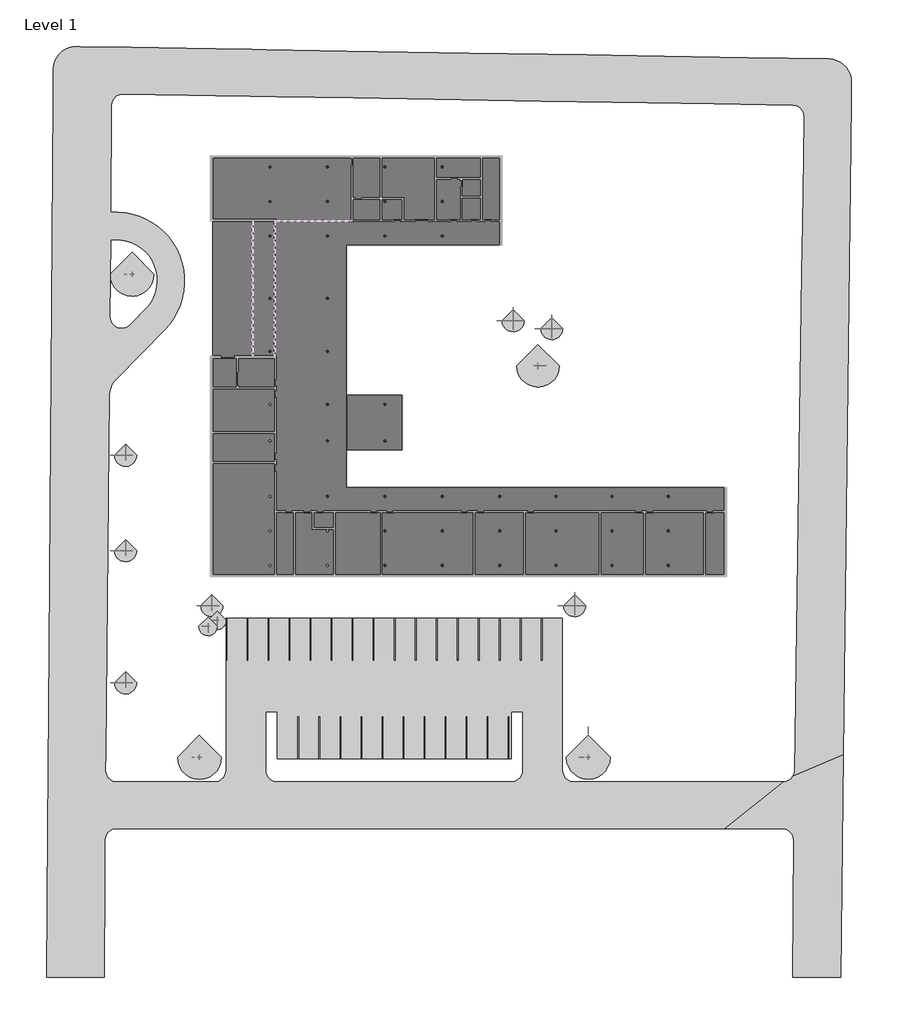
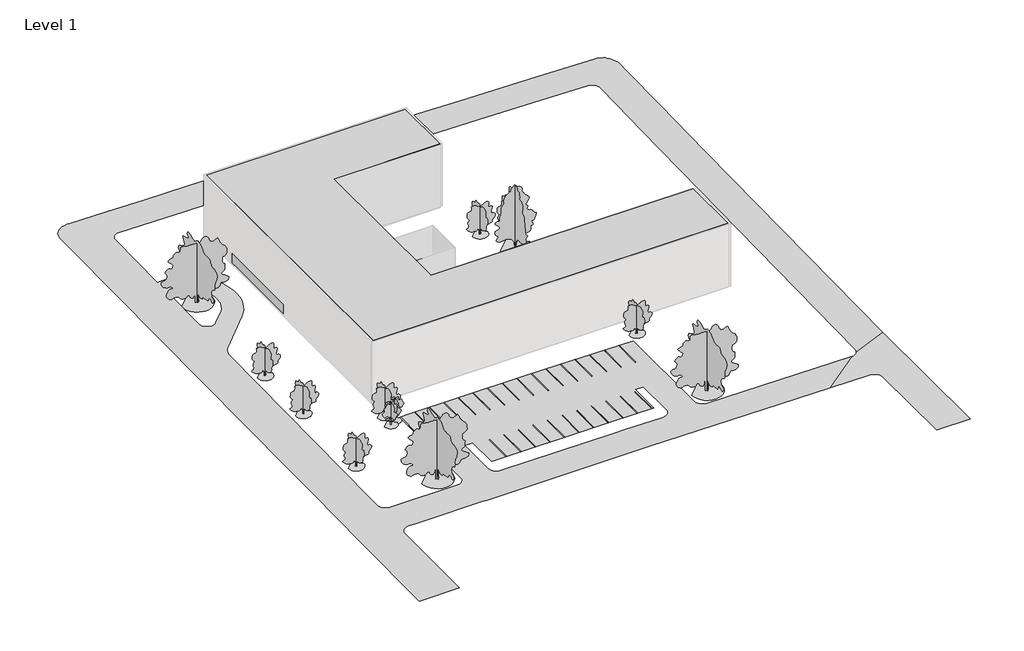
# One storey, part 5 of 5: 39 columns, 30 proxies, 13 geographic elements.
"""IFC4 building model written with IfcOpenShell, lengths in millimetres."""

from ifc_helpers import new_model, si_unit, origin, origin_with_axes, place, context, project, spatial, polyline, outline, extrude, triangles, transform, mapped, element, save
from components import m_parking_space_5480_x_2740mm_90_deg_a793e569, m_concrete_round_column_300mm_df790aaa, m_rpc_tree_deciduous_american_beech_6_0_meters_be49fed4, m_rpc_tree_deciduous_japanese_cherry_4_5_meters_7aaeb41d, m_rpc_tree_deciduous_lombardy_poplar_12_2_meters_1b309f58, m_rpc_tree_deciduous_scarlet_oak_12_5_meters_13b38d7d

model = new_model("IFC4")

# Units and contexts
model_context = context("Model", 3, world=origin())
ifc_project = project(units=[si_unit("LENGTHUNIT", "METRE", prefix="MILLI")], contexts=[model_context])

# Site, building, storey
site = spatial("IfcSite", under=ifc_project)
building = spatial("IfcBuilding", under=site)
storey = spatial("IfcBuildingStorey", under=building, Name="Level 1", Elevation=0.0)

# Proxies
placement = place(None, origin())
element("IfcBuildingElementProxy", 1, Name="Building Element Proxy", at=placement, inside=storey, context=model_context, shape_type="Tessellation", body=[
    triangles([(70309.7548828, 43704.7137085, -503.1527547), (59746.7205688, 43879.5355957, -409.5406998), (45204.5570435, 44120.2092773, -278.9620967), (38757.531958, 44226.9097412, -221.9724431), (23364.4389771, 44481.6709351, -156.1477909), (7458.42556, 44744.915332, 0.0), (-3099.0088051, 44919.6442017, 0.0), (-4909.0805878, 44949.6005127, 0.0), (-9691.7927261, 45028.7538208, 0.0), (-13464.786264, 45091.2011719, 0.0), (-20574.5627563, 45208.8684082, 0.0), (-27271.6376953, 45319.7081543, 0.0), (-27739.5370422, 45327.4518677, 0.0), (-28264.1631592, 45290.0215942, 0.0), (-28774.1901672, 45161.5457153, 0.0), (-29253.9399536, 44945.9681763, 0.0), (-29688.6669067, 44649.9211304, 0.0), (-30065.011377, 44282.4970459, 0.0), (-30371.4019775, 43854.9975586, 0.0), (-30598.4230042, 43380.5567505, 0.0), (-30739.095813, 42873.755127, 0.0), (-30774.2820374, 42505.3404053, 0.0), (-30789.0997375, 42350.1824341, 0.0), (-30818.2607483, 38430.6216797, 0.0), (-31349.0702087, -32913.8142334, 0.0), (-31410.3827454, -41154.7298218, 0.0), (-31466.9560364, -48758.3494263, 0.0), (-31526.3942688, -56747.4710815, 0.0), (-31669.8878357, -76033.9217651, 0.0), (-24160.2671448, -76033.9217651, 0.0), (-24090.7853394, -62944.5904907, 0.0), (-24065.2287598, -58130.4099243, 0.0), (-24026.1078918, -57797.9371948, 0.0), (-23964.4744446, -57624.1291992, 0.0), (-23914.2263489, -57482.4262207, 0.0), (-23735.1558838, -57199.58302, 0.0), (-23497.8145569, -56963.4997559, 0.0), (-23214.0249023, -56785.9338501, 0.0), (-22897.9232666, -56675.7266235, 0.0), (-22565.2505493, -56638.3707642, 0.0), (-21189.1601257, -56638.3707642, 0.0), (-18714.6158203, -56638.3707642, 0.0), (-9198.8908356, -56638.3707642, 0.0), (-8594.8358459, -56638.3707642, 0.0), (-7828.2291504, -56638.3707642, 0.0), (21010.0826843, -56638.3707642, 0.0), (22698.8121643, -56638.3707642, 0.0), (56711.1151611, -56638.3707642, -334.7282604), (64236.9255615, -56638.3707642, -334.7282604), (64572.5050781, -56676.3916992, -334.0721231), (64891.0763306, -56788.5243896, -332.1369578), (65176.4821655, -56969.0808105, -329.020869), (65414.2630005, -57208.917334, -324.8818048), (65592.3591064, -57495.8672607, -319.9295998), (65701.7431274, -57815.3872925, -314.4152925), (65736.8712158, -58151.2830688, -308.6184443), (65582.9224731, -76033.9217651, 0.0), (71858.6882446, -76033.9217651, 0.0), (72207.6111328, -46972.9328247, -501.5343578), (72914.4470581, 11897.6051788, -595.5837407), (72981.5592407, 17486.9884277, -555.8220689), (73096.2220093, 27037.1194519, -545.4053719), (73231.3532959, 38291.881311, -535.7858282), (73259.8957397, 40669.1083008, -533.0508934), (73220.8237061, 41189.0672607, -532.0520082), (73092.3059692, 41694.4085083, -530.2807137), (72878.2306641, 42169.863208, -527.790495), (72585.0625122, 42601.0694458, -524.6566383), (72221.661438, 42975.0001099, -520.9737236), (71799.0035156, 43280.3582153, -516.8530812), (71329.8554077, 43507.9210693, -512.4191949), (70828.3883423, 43650.810022, -507.805959), (65844.943689, -49064.5493408, -435.8225258), (65789.1005859, -49448.423584, -434.7050795), (65636.6912842, -49805.1366943, -432.6774053), (65397.8965576, -50110.8436157, -429.875069), (65088.6968262, -50345.0897827, -426.4855594), (64729.7652466, -50492.2110352, -422.7355339), (64345.1050049, -50542.3707642, -418.8757768), (37077.7972778, -50542.3707642, -150.5276125), (36744.0176514, -50504.7637573, -147.2983764), (36426.9718872, -50393.8263428, -144.3423523), (36142.5636658, -50215.1163208, -141.8077414), (35905.0502563, -49977.6052368, -139.8216707), (35726.3448853, -49693.1946899, -138.4837074), (35615.4051453, -49376.1535767, -137.8609529), (35577.7981384, -49042.3692993, -137.9846372), (35577.7981384, -29206.3707642, -167.3300298), (18575.1115448, -29206.3707642, 0.0), (14497.9359924, -29206.3707642, 0.0), (-7039.9656372, -29206.3707642, 0.0), (-8262.2014984, -29206.3707642, 0.0), (-8262.2014984, -49042.3692993, 0.0), (-8299.809668, -49376.1535767, 0.0), (-8410.7482452, -49693.1946899, 0.0), (-8589.4541977, -49977.6052368, 0.0), (-8665.8786026, -50054.028479, 0.0), (-8826.9670258, -50215.1163208, 0.0), (-9111.3758286, -50393.8263428, 0.0), (-9428.4198486, -50504.7637573, 0.0), (-9455.9652603, -50507.8658936, 0.0), (-9762.2018005, -50542.3707642, 0.0), (-21961.0269653, -50542.3707642, 0.0), (-22489.1714722, -50542.3707642, 0.0), (-22825.1137573, -50504.2661133, 0.0), (-23143.9896423, -50391.896228, 0.0), (-23429.5977905, -50210.9584351, 0.0), (-23667.4274597, -49970.6568237, 0.0), (-23845.3979919, -49683.1953003, 0.0), (-23954.4657532, -49363.1729736, 0.0), (-23989.0915466, -49026.8539673, 0.0), (-23965.8278503, -46777.8191528, 0.0), (-23482.8736084, -89.4265001, 0.0), (-23435.7322998, 363.1888415, 0.0), (-23321.7694885, 803.7518847, 0.0), (-23143.5268799, 1222.4547432, 0.0), (-22904.9670227, 1609.9761475, 0.0), (-22611.4058716, 1957.6892258, 0.0), (-16262.7991974, 8428.9988754, 0.0), (-15636.7711304, 9137.9788559, 0.0), (-15088.4732025, 9908.6498383, 0.0), (-14623.9422546, 10732.5286194, 0.0), (-14248.2919281, 11600.5442413, 0.0), (-13965.658017, 12503.1414734, 0.0), (-13779.1507965, 13430.3848755, 0.0), (-13690.8247925, 14372.0646057, 0.0), (-13701.6508759, 15317.8173431, 0.0), (-13811.5116119, 16257.2297699, 0.0), (-14019.1954468, 17179.959494, 0.0), (-14322.4187988, 18075.8513214, 0.0), (-14717.8411743, 18935.0395752, 0.0), (-15201.1093506, 19748.0690186, 0.0), (-15766.9062103, 20505.9855469, 0.0), (-16409.0007385, 21200.4478088, 0.0), (-17120.3235992, 21823.812085, 0.0), (-17893.0473633, 22369.2160034, 0.0), (-18718.662085, 22830.6506287, 0.0), (-19588.0811096, 23203.0418518, 0.0), (-20491.7329285, 23482.2875977, 0.0), (-21419.6693115, 23665.3136353, 0.0), (-22361.6746033, 23750.1084595, 0.0), (-23307.3796692, 23735.7325928, 0.0), (-23203.9185425, 37641.6768127, 0.0), (-23163.3768311, 37977.0679688, 0.0), (-23048.8094055, 38294.8811279, 0.0), (-22866.0228882, 38578.9940186, 0.0), (-22624.2911316, 38814.9958923, 0.0), (-22335.8738525, 38990.915387, 0.0), (-22015.4050415, 39097.8274658, 0.0), (-21679.1371948, 39130.3092041, 0.0), (-13208.9460663, 38990.1293884, 0.0), (-9625.997905, 38930.8306824, 0.0), (-5084.1908295, 38855.6655029, 0.0), (-1645.9585442, 38798.7619995, 0.0), (8377.2142456, 38632.8791016, 0.0), (32875.1398499, 38227.4364075, -240.4937689), (46729.6360474, 37998.1434265, -299.7389899), (55435.3325684, 37854.0638489, -376.6945579), (65630.1847046, 37685.3392639, -468.2372987), (65962.9318359, 37642.302356, -471.261242), (66277.7870361, 37526.3815247, -474.1950019), (66559.0024292, 37343.376416, -476.8917123), (66792.4998047, 37102.4422852, -479.216534), (66966.6054565, 36815.6318848, -481.0531225), (67072.6082886, 36497.2978271, -482.3095865), (67105.1969971, 36163.3670471, -482.9230665), (67025.2297852, 30755.4808594, -487.4104743), (66899.3025879, 22239.1774292, -496.4906977), (66805.7827148, 15914.661145, -541.4088498), (-1581.9995121, -47494.3707642, 0.0), (18839.3663452, -47494.3707642, 0.0), (21324.2449036, -47494.3707642, 0.0), (28897.5965881, -47494.3707642, -74.5322966), (28897.5965881, -41398.3707642, -83.5507232), (30421.5965881, -41398.3707642, -98.5489992), (30421.5965881, -49042.3692993, -87.2404598), (30383.9895813, -49376.1535767, -86.3765409), (30273.0498413, -49693.1946899, -84.8157168), (30094.3444702, -49977.6052368, -82.6362441), (29856.8310608, -50215.1163208, -79.9474184), (29572.4228394, -50393.8263428, -76.8840607), (29255.3770752, -50504.7637573, -73.5997817), (28921.5974487, -50542.3707642, -70.2592743), (21782.4332153, -50542.3707642, 0.0), (19562.9384583, -50542.3707642, 0.0), (-1605.9993553, -50542.3707642, 0.0), (-1939.7807259, -50504.7637573, 0.0), (-2256.8250366, -50393.8263428, 0.0), (-2541.2341301, -50215.1163208, 0.0), (-2778.7466675, -49977.6052368, 0.0), (-2957.4526199, -49693.1946899, 0.0), (-3068.3911972, -49376.1535767, 0.0), (-3105.9993668, -49042.3692993, 0.0), (-3105.9993668, -41398.3707642, 0.0), (-1581.9995121, -41398.3707642, 0.0), (-23329.5411072, 20062.4428528, 0.0), (-22621.2355042, 20122.8182373, 0.0), (-21911.2137268, 20088.0784973, 0.0), (-21212.1866272, 19958.8398743, 0.0), (-20536.6766968, 19737.4208313, 0.0), (-19896.7808716, 19427.7839172, 0.0), (-19303.9589172, 19035.4776306, 0.0), (-18768.829953, 18567.527124, 0.0), (-18300.9771149, 18032.3132813, 0.0), (-17908.7801239, 17439.420401, 0.0), (-17599.2606445, 16799.4687653, 0.0), (-17377.9648499, 16123.9181396, 0.0), (-17248.854126, 15424.8677856, 0.0), (-17214.2422852, 14714.8378693, 0.0), (-17274.7478943, 14006.5438934, 0.0), (-17429.2872986, 13312.6722931, 0.0), (-17675.0943878, 12645.649054, 0.0), (-18007.7659424, 12017.4211212, 0.0), (-18421.3430237, 11439.2389709, 0.0), (-20791.7983337, 9022.9684341, 0.0), (-21073.2044128, 8797.119429, 0.0), (-21399.8193604, 8643.7590225, 0.0), (-21753.3349915, 8571.483783, 0.0), (-22113.9339111, 8584.3452072, 0.0), (-22461.4010742, 8681.6229904, 0.0), (-22776.2609253, 8857.8639771, 0.0), (-23040.8610535, 9103.1879562, 0.0), (-23240.3698059, 9403.8428604, 0.0), (-23363.6018188, 9742.9750671, 0.0), (-23403.6505371, 10101.5741089, 0.0)], [[29, 30, 31], [29, 31, 28], [28, 32, 33], [32, 28, 31], [33, 34, 28], [28, 34, 35], [36, 37, 108], [36, 108, 28], [108, 37, 107], [38, 106, 107], [106, 38, 39], [37, 38, 107], [36, 28, 35], [28, 108, 27], [110, 111, 27], [109, 110, 27], [26, 27, 112], [25, 112, 113], [112, 25, 26], [27, 111, 112], [109, 27, 108], [114, 115, 224], [113, 114, 225], [225, 114, 224], [223, 116, 117], [223, 224, 115], [116, 223, 115], [25, 113, 24], [24, 113, 225], [105, 39, 40], [104, 40, 103], [105, 40, 104], [117, 118, 222], [118, 219, 220], [221, 118, 220], [223, 117, 222], [103, 41, 42], [41, 103, 40], [219, 118, 218], [216, 118, 119], [217, 218, 118], [118, 216, 217], [216, 119, 215], [212, 213, 122], [214, 121, 213], [119, 214, 215], [221, 222, 118], [121, 122, 213], [122, 123, 212], [211, 123, 124], [211, 212, 123], [211, 124, 210], [210, 124, 125], [121, 214, 120], [120, 214, 119], [105, 106, 39], [142, 143, 24], [196, 142, 24], [24, 144, 145], [144, 24, 143], [24, 145, 23], [146, 23, 145], [142, 196, 197], [196, 24, 225], [140, 198, 139], [197, 198, 141], [141, 198, 140], [12, 146, 147], [141, 142, 197], [12, 147, 148], [22, 20, 21], [16, 17, 22], [20, 22, 19], [18, 19, 22], [17, 18, 22], [22, 23, 13], [23, 12, 13], [23, 146, 12], [149, 11, 148], [16, 22, 15], [22, 14, 15], [13, 14, 22], [149, 150, 11], [12, 148, 11], [139, 198, 199], [207, 208, 128], [133, 203, 204], [205, 206, 131], [132, 204, 205], [207, 129, 206], [209, 126, 127], [126, 209, 210], [127, 128, 208], [206, 130, 131], [130, 206, 129], [129, 207, 128], [127, 208, 209], [210, 125, 126], [131, 132, 205], [137, 201, 136], [200, 201, 137], [11, 150, 151], [139, 199, 138], [200, 137, 138], [201, 202, 136], [199, 200, 138], [203, 134, 202], [134, 135, 202], [136, 202, 135], [10, 151, 9], [10, 11, 151], [203, 133, 134], [204, 132, 133], [103, 42, 102], [100, 43, 44], [99, 100, 44], [102, 43, 101], [188, 45, 187], [100, 101, 43], [44, 45, 99], [45, 186, 187], [43, 102, 42], [185, 186, 46], [46, 186, 45], [184, 46, 47], [185, 46, 184], [182, 183, 47], [47, 183, 184], [182, 82, 181], [99, 45, 98], [98, 45, 97], [95, 96, 190], [93, 94, 192], [95, 191, 94], [97, 190, 96], [45, 189, 190], [45, 188, 189], [191, 192, 94], [191, 95, 190], [193, 93, 192], [180, 181, 83], [190, 97, 45], [81, 182, 47], [79, 50, 78], [49, 50, 79], [80, 47, 48], [48, 79, 80], [79, 48, 49], [81, 47, 80], [78, 50, 51], [57, 58, 56], [55, 59, 54], [77, 51, 52], [59, 75, 53], [76, 52, 53], [54, 59, 53], [182, 81, 82], [55, 56, 59], [180, 84, 179], [180, 83, 84], [179, 84, 85], [177, 178, 86], [85, 86, 178], [178, 179, 85], [87, 177, 86], [77, 78, 51], [75, 76, 53], [59, 73, 74], [74, 75, 59], [77, 52, 76], [82, 83, 181], [56, 58, 59], [170, 171, 195], [91, 92, 194], [194, 195, 91], [93, 194, 92], [195, 90, 91], [90, 195, 171], [194, 93, 193], [175, 176, 87], [172, 174, 89], [172, 173, 174], [175, 88, 174], [88, 175, 87], [172, 89, 171], [177, 87, 176], [89, 174, 88], [8, 152, 153], [7, 153, 154], [8, 9, 152], [6, 7, 154], [8, 153, 7], [154, 155, 6], [9, 151, 152], [89, 90, 171], [155, 5, 6], [155, 156, 5], [5, 156, 4], [4, 157, 3], [4, 156, 157], [168, 169, 61], [160, 161, 1], [162, 163, 64], [161, 162, 1], [163, 164, 63], [62, 168, 61], [61, 169, 60], [165, 166, 63], [167, 63, 166], [168, 62, 167], [164, 165, 63], [63, 167, 62], [3, 158, 2], [2, 158, 159], [2, 159, 1], [66, 71, 72], [72, 1, 65], [159, 160, 1], [158, 3, 157], [66, 72, 65], [64, 65, 1], [66, 67, 71], [69, 70, 68], [67, 68, 70], [71, 67, 70], [162, 64, 1], [163, 63, 64], [60, 169, 73], [59, 60, 73]], closed=False),
])
m_parking_space_5480_x_2740mm_90_deg_shape = m_parking_space_5480_x_2740mm_90_deg_a793e569(model_context)
element("IfcBuildingElementProxy", 2, Name="M_Parking Space : 5480 x 2740mm - 90 deg", ObjectType="M_Parking Space : 5480 x 2740mm - 90 deg", at=placement, inside=storey, context=model_context, shape_type="MappedRepresentation", body=[
    mapped(m_parking_space_5480_x_2740mm_90_deg_shape, transform((-8211.3704002, -29206.3707642, 0.7803686), x_axis=(1.0, 0.0, 0.0), y_axis=(0.0, 1.0, 0.0), z_axis=(0.0, 0.0, 1.0))),
])
element("IfcBuildingElementProxy", 3, Name="M_Parking Space : 5480 x 2740mm - 90 deg", ObjectType="M_Parking Space : 5480 x 2740mm - 90 deg", at=placement, inside=storey, context=model_context, shape_type="MappedRepresentation", body=[
    mapped(m_parking_space_5480_x_2740mm_90_deg_shape, transform((-5471.4012928, -29206.3707642, 0.7803686), x_axis=(1.0, 0.0, 0.0), y_axis=(0.0, 1.0, 0.0), z_axis=(0.0, 0.0, 1.0))),
])
element("IfcBuildingElementProxy", 4, Name="M_Parking Space : 5480 x 2740mm - 90 deg", ObjectType="M_Parking Space : 5480 x 2740mm - 90 deg", at=placement, inside=storey, context=model_context, shape_type="MappedRepresentation", body=[
    mapped(m_parking_space_5480_x_2740mm_90_deg_shape, transform((-2731.4321855, -29206.3707642, 0.7803686), x_axis=(1.0, 0.0, 0.0), y_axis=(0.0, 1.0, 0.0), z_axis=(0.0, 0.0, 1.0))),
])
element("IfcBuildingElementProxy", 5, Name="M_Parking Space : 5480 x 2740mm - 90 deg", ObjectType="M_Parking Space : 5480 x 2740mm - 90 deg", at=placement, inside=storey, context=model_context, shape_type="MappedRepresentation", body=[
    mapped(m_parking_space_5480_x_2740mm_90_deg_shape, transform((8.5369219, -29206.3707642, 0.7803686), x_axis=(1.0, 0.0, 0.0), y_axis=(0.0, 1.0, 0.0), z_axis=(0.0, 0.0, 1.0))),
])
element("IfcBuildingElementProxy", 6, Name="M_Parking Space : 5480 x 2740mm - 90 deg", ObjectType="M_Parking Space : 5480 x 2740mm - 90 deg", at=placement, inside=storey, context=model_context, shape_type="MappedRepresentation", body=[
    mapped(m_parking_space_5480_x_2740mm_90_deg_shape, transform((2748.5060292, -29206.3707642, 0.7803686), x_axis=(1.0, 0.0, 0.0), y_axis=(0.0, 1.0, 0.0), z_axis=(0.0, 0.0, 1.0))),
])
element("IfcBuildingElementProxy", 7, Name="M_Parking Space : 5480 x 2740mm - 90 deg", ObjectType="M_Parking Space : 5480 x 2740mm - 90 deg", at=placement, inside=storey, context=model_context, shape_type="MappedRepresentation", body=[
    mapped(m_parking_space_5480_x_2740mm_90_deg_shape, transform((5488.4751366, -29206.3707642, 0.7803686), x_axis=(1.0, 0.0, 0.0), y_axis=(0.0, 1.0, 0.0), z_axis=(0.0, 0.0, 1.0))),
])
element("IfcBuildingElementProxy", 8, Name="M_Parking Space : 5480 x 2740mm - 90 deg", ObjectType="M_Parking Space : 5480 x 2740mm - 90 deg", at=placement, inside=storey, context=model_context, shape_type="MappedRepresentation", body=[
    mapped(m_parking_space_5480_x_2740mm_90_deg_shape, transform((8228.4442439, -29206.3707642, 0.7803686), x_axis=(1.0, 0.0, 0.0), y_axis=(0.0, 1.0, 0.0), z_axis=(0.0, 0.0, 1.0))),
])
element("IfcBuildingElementProxy", 9, Name="M_Parking Space : 5480 x 2740mm - 90 deg", ObjectType="M_Parking Space : 5480 x 2740mm - 90 deg", at=placement, inside=storey, context=model_context, shape_type="MappedRepresentation", body=[
    mapped(m_parking_space_5480_x_2740mm_90_deg_shape, transform((10968.4133512, -29206.3707642, 0.7803686), x_axis=(1.0, 0.0, 0.0), y_axis=(0.0, 1.0, 0.0), z_axis=(0.0, 0.0, 1.0))),
])
element("IfcBuildingElementProxy", 10, Name="M_Parking Space : 5480 x 2740mm - 90 deg", ObjectType="M_Parking Space : 5480 x 2740mm - 90 deg", at=placement, inside=storey, context=model_context, shape_type="MappedRepresentation", body=[
    mapped(m_parking_space_5480_x_2740mm_90_deg_shape, transform((13708.3824586, -29206.3707642, 0.7803686), x_axis=(1.0, 0.0, 0.0), y_axis=(0.0, 1.0, 0.0), z_axis=(0.0, 0.0, 1.0))),
])
element("IfcBuildingElementProxy", 11, Name="M_Parking Space : 5480 x 2740mm - 90 deg", ObjectType="M_Parking Space : 5480 x 2740mm - 90 deg", at=placement, inside=storey, context=model_context, shape_type="MappedRepresentation", body=[
    mapped(m_parking_space_5480_x_2740mm_90_deg_shape, transform((16448.3515659, -29206.3707642, 0.7254434), x_axis=(1.0, 0.0, 0.0), y_axis=(0.0, 1.0, 0.0), z_axis=(0.0, 0.0, 1.0))),
])
element("IfcBuildingElementProxy", 12, Name="M_Parking Space : 5480 x 2740mm - 90 deg", ObjectType="M_Parking Space : 5480 x 2740mm - 90 deg", at=placement, inside=storey, context=model_context, shape_type="MappedRepresentation", body=[
    mapped(m_parking_space_5480_x_2740mm_90_deg_shape, transform((19188.3206733, -29206.3707642, -5.2310848), x_axis=(0.9999560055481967, 0.0, -0.009380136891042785), y_axis=(-1.1675017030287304e-05, 0.9999992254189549, -0.0012445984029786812), z_axis=(0.009380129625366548, 0.0012446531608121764, 0.9999552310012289))),
])
element("IfcBuildingElementProxy", 13, Name="M_Parking Space : 5480 x 2740mm - 90 deg", ObjectType="M_Parking Space : 5480 x 2740mm - 90 deg", at=placement, inside=storey, context=model_context, shape_type="MappedRepresentation", body=[
    mapped(m_parking_space_5480_x_2740mm_90_deg_shape, transform((21928.2897806, -29206.3707642, -32.2196013), x_axis=(0.9999515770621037, 0.0, -0.0098409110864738), y_axis=(-1.4557933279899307e-05, 0.9999989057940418, -0.0014792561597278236), z_axis=(0.009840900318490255, 0.0014793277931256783, 0.99995048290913))),
])
element("IfcBuildingElementProxy", 14, Name="M_Parking Space : 5480 x 2740mm - 90 deg", ObjectType="M_Parking Space : 5480 x 2740mm - 90 deg", at=placement, inside=storey, context=model_context, shape_type="MappedRepresentation", body=[
    mapped(m_parking_space_5480_x_2740mm_90_deg_shape, transform((24668.258888, -29206.3707642, -59.1846994), x_axis=(0.9999515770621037, 0.0, -0.009840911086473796), y_axis=(-1.4557933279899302e-05, 0.9999989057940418, -0.0014792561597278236), z_axis=(0.009840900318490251, 0.0014793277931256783, 0.99995048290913))),
])
element("IfcBuildingElementProxy", 15, Name="M_Parking Space : 5480 x 2740mm - 90 deg", ObjectType="M_Parking Space : 5480 x 2740mm - 90 deg", at=placement, inside=storey, context=model_context, shape_type="MappedRepresentation", body=[
    mapped(m_parking_space_5480_x_2740mm_90_deg_shape, transform((27408.2279953, -29206.3707642, -86.1497975), x_axis=(0.9999515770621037, 0.0, -0.0098409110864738), y_axis=(-1.4557933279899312e-05, 0.9999989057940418, -0.001479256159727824), z_axis=(0.009840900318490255, 0.0014793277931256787, 0.99995048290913))),
])
element("IfcBuildingElementProxy", 16, Name="M_Parking Space : 5480 x 2740mm - 90 deg", ObjectType="M_Parking Space : 5480 x 2740mm - 90 deg", at=placement, inside=storey, context=model_context, shape_type="MappedRepresentation", body=[
    mapped(m_parking_space_5480_x_2740mm_90_deg_shape, transform((30148.1971027, -29206.3707642, -113.1148956), x_axis=(0.9999515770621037, 0.0, -0.009840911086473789), y_axis=(-1.4557933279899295e-05, 0.9999989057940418, -0.001479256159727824), z_axis=(0.009840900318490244, 0.0014793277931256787, 0.99995048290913))),
])
element("IfcBuildingElementProxy", 17, Name="M_Parking Space : 5480 x 2740mm - 90 deg", ObjectType="M_Parking Space : 5480 x 2740mm - 90 deg", at=placement, inside=storey, context=model_context, shape_type="MappedRepresentation", body=[
    mapped(m_parking_space_5480_x_2740mm_90_deg_shape, transform((32888.16621, -29206.3707642, -140.0799937), x_axis=(0.9999515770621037, 0.0, -0.009840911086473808), y_axis=(-1.4557933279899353e-05, 0.9999989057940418, -0.0014792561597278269), z_axis=(0.009840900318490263, 0.0014793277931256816, 0.99995048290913))),
])
element("IfcBuildingElementProxy", 18, Name="M_Parking Space : 5480 x 2740mm - 90 deg", ObjectType="M_Parking Space : 5480 x 2740mm - 90 deg", at=placement, inside=storey, context=model_context, shape_type="MappedRepresentation", body=[
    mapped(m_parking_space_5480_x_2740mm_90_deg_shape, transform((28558.0005584, -47494.3704098, -70.4098691), x_axis=(-0.9999515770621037, 0.0, 0.009840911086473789), y_axis=(1.4557933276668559e-05, -0.9999989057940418, 0.0014792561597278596), z_axis=(0.00984090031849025, 0.0014793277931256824, 0.99995048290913))),
])
element("IfcBuildingElementProxy", 19, Name="M_Parking Space : 5480 x 2740mm - 90 deg", ObjectType="M_Parking Space : 5480 x 2740mm - 90 deg", at=placement, inside=storey, context=model_context, shape_type="MappedRepresentation", body=[
    mapped(m_parking_space_5480_x_2740mm_90_deg_shape, transform((25818.031746, -47494.3704098, -43.444774), x_axis=(-0.9999515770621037, 0.0, 0.009840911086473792), y_axis=(1.455793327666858e-05, -0.9999989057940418, 0.0014792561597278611), z_axis=(0.009840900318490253, 0.001479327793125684, 0.99995048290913))),
])
element("IfcBuildingElementProxy", 20, Name="M_Parking Space : 5480 x 2740mm - 90 deg", ObjectType="M_Parking Space : 5480 x 2740mm - 90 deg", at=placement, inside=storey, context=model_context, shape_type="MappedRepresentation", body=[
    mapped(m_parking_space_5480_x_2740mm_90_deg_shape, transform((23078.0629336, -47494.3704098, -16.4796788), x_axis=(-0.9999515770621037, 0.0, 0.009840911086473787), y_axis=(1.4557933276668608e-05, -0.9999989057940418, 0.0014792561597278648), z_axis=(0.009840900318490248, 0.0014793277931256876, 0.99995048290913))),
])
element("IfcBuildingElementProxy", 21, Name="M_Parking Space : 5480 x 2740mm - 90 deg", ObjectType="M_Parking Space : 5480 x 2740mm - 90 deg", at=placement, inside=storey, context=model_context, shape_type="MappedRepresentation", body=[
    mapped(m_parking_space_5480_x_2740mm_90_deg_shape, transform((20338.0941212, -47494.3704098, 0.5399922), x_axis=(-0.9999888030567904, 0.0, 0.004732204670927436), y_axis=(3.5003760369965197e-06, -0.9999997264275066, 0.0007396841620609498), z_axis=(0.004732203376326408, 0.0007396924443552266, 0.9999885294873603))),
])
element("IfcBuildingElementProxy", 22, Name="M_Parking Space : 5480 x 2740mm - 90 deg", ObjectType="M_Parking Space : 5480 x 2740mm - 90 deg", at=placement, inside=storey, context=model_context, shape_type="MappedRepresentation", body=[
    mapped(m_parking_space_5480_x_2740mm_90_deg_shape, transform((17598.1253087, -47494.3704098, 0.7803686), x_axis=(-1.0, 0.0, 0.0), y_axis=(0.0, -1.0, 0.0), z_axis=(0.0, 0.0, 1.0))),
])
element("IfcBuildingElementProxy", 23, Name="M_Parking Space : 5480 x 2740mm - 90 deg", ObjectType="M_Parking Space : 5480 x 2740mm - 90 deg", at=placement, inside=storey, context=model_context, shape_type="MappedRepresentation", body=[
    mapped(m_parking_space_5480_x_2740mm_90_deg_shape, transform((14858.1564963, -47494.3704098, 0.7803686), x_axis=(-1.0, 0.0, 0.0), y_axis=(0.0, -1.0, 0.0), z_axis=(0.0, 0.0, 1.0))),
])
element("IfcBuildingElementProxy", 24, Name="M_Parking Space : 5480 x 2740mm - 90 deg", ObjectType="M_Parking Space : 5480 x 2740mm - 90 deg", at=placement, inside=storey, context=model_context, shape_type="MappedRepresentation", body=[
    mapped(m_parking_space_5480_x_2740mm_90_deg_shape, transform((12118.1876839, -47494.3704098, 0.7803686), x_axis=(-1.0, 0.0, 0.0), y_axis=(0.0, -1.0, 0.0), z_axis=(0.0, 0.0, 1.0))),
])
element("IfcBuildingElementProxy", 25, Name="M_Parking Space : 5480 x 2740mm - 90 deg", ObjectType="M_Parking Space : 5480 x 2740mm - 90 deg", at=placement, inside=storey, context=model_context, shape_type="MappedRepresentation", body=[
    mapped(m_parking_space_5480_x_2740mm_90_deg_shape, transform((9378.2188715, -47494.3704098, 0.7803686), x_axis=(-1.0, 0.0, 0.0), y_axis=(0.0, -1.0, 0.0), z_axis=(0.0, 0.0, 1.0))),
])
element("IfcBuildingElementProxy", 26, Name="M_Parking Space : 5480 x 2740mm - 90 deg", ObjectType="M_Parking Space : 5480 x 2740mm - 90 deg", at=placement, inside=storey, context=model_context, shape_type="MappedRepresentation", body=[
    mapped(m_parking_space_5480_x_2740mm_90_deg_shape, transform((6638.2500591, -47494.3704098, 0.7803686), x_axis=(-1.0, 0.0, 0.0), y_axis=(0.0, -1.0, 0.0), z_axis=(0.0, 0.0, 1.0))),
])
element("IfcBuildingElementProxy", 27, Name="M_Parking Space : 5480 x 2740mm - 90 deg", ObjectType="M_Parking Space : 5480 x 2740mm - 90 deg", at=placement, inside=storey, context=model_context, shape_type="MappedRepresentation", body=[
    mapped(m_parking_space_5480_x_2740mm_90_deg_shape, transform((3898.2812467, -47494.3704098, 0.7803686), x_axis=(-1.0, 0.0, 0.0), y_axis=(0.0, -1.0, 0.0), z_axis=(0.0, 0.0, 1.0))),
])
element("IfcBuildingElementProxy", 28, Name="M_Parking Space : 5480 x 2740mm - 90 deg", ObjectType="M_Parking Space : 5480 x 2740mm - 90 deg", at=placement, inside=storey, context=model_context, shape_type="MappedRepresentation", body=[
    mapped(m_parking_space_5480_x_2740mm_90_deg_shape, transform((1158.3124343, -47494.3704098, 0.7803686), x_axis=(-1.0, 0.0, 0.0), y_axis=(0.0, -1.0, 0.0), z_axis=(0.0, 0.0, 1.0))),
])
element("IfcBuildingElementProxy", 29, Name="Main Building : Main Building", ObjectType="Main Building : Main Building", at=placement, inside=storey, context=model_context, shape_type="SweptSolid", body=[
    extrude(outline(polyline([(27411.8999097, 30818.5799804), (27411.8999097, 19414.8392059), (7447.5010724, 19414.8392059), (7447.5010724, -12132.3615692), (56699.1173382, -12132.3615692), (56699.1173382, -23510.7006057), (-10026.8386635, -23510.7006057), (-10026.8386635, 30818.5799804), (27411.8999097, 30818.5799804)])), origin_with_axes(), (0.0, 0.0, 1.0), 12400.0),
])
element("IfcBuildingElementProxy", 30, Name="Pavillion : Pavillion", ObjectType="Pavillion : Pavillion", at=placement, inside=storey, context=model_context, shape_type="SweptSolid", body=[
    extrude(outline(polyline([(14709.0902051, -89.4607941), (14709.0902051, -7283.8611817), (7447.5010724, -7283.8611817), (7447.5010724, -89.4607941), (14709.0902051, -89.4607941)])), origin_with_axes(), (0.0, 0.0, 1.0), 6600.0),
])

# Columns
m_concrete_round_column_300mm_shape = m_concrete_round_column_300mm_df790aaa(model_context)
element("IfcColumn", 31, ObjectType="M_Concrete-Round-Column : 300mm", at=placement, inside=storey, context=model_context, shape_type="MappedRepresentation", body=[
    mapped(m_concrete_round_column_300mm_shape, transform((-2539.0909489, 25116.7095931, 0.0), x_axis=(-1.0, 0.0, 0.0), y_axis=(0.0, -1.0, 0.0), z_axis=(0.0, 0.0, 1.0))),
])
element("IfcColumn", 32, ObjectType="M_Concrete-Round-Column : 300mm", at=placement, inside=storey, context=model_context, shape_type="MappedRepresentation", body=[
    mapped(m_concrete_round_column_300mm_shape, transform((-2539.0909489, 12506.7392059, 0.0), x_axis=(-1.0, 0.0, 0.0), y_axis=(0.0, -1.0, 0.0), z_axis=(0.0, 0.0, 1.0))),
])
element("IfcColumn", 33, ObjectType="M_Concrete-Round-Column : 300mm", at=placement, inside=storey, context=model_context, shape_type="MappedRepresentation", body=[
    mapped(m_concrete_round_column_300mm_shape, transform((-2539.0909489, 5598.6392059, 0.0), x_axis=(-1.0, 0.0, 0.0), y_axis=(0.0, -1.0, 0.0), z_axis=(0.0, 0.0, 1.0))),
])
element("IfcColumn", 34, ObjectType="M_Concrete-Round-Column : 300mm", at=placement, inside=storey, context=model_context, shape_type="MappedRepresentation", body=[
    mapped(m_concrete_round_column_300mm_shape, transform((-2539.0909489, 29618.5799804, 0.0), x_axis=(-1.0, 0.0, 0.0), y_axis=(0.0, -1.0, 0.0), z_axis=(0.0, 0.0, 1.0))),
])
element("IfcColumn", 35, ObjectType="M_Concrete-Round-Column : 300mm", at=placement, inside=storey, context=model_context, shape_type="MappedRepresentation", body=[
    mapped(m_concrete_round_column_300mm_shape, transform((-2539.0909489, 20614.8392059, 0.0), x_axis=(-1.0, 0.0, 0.0), y_axis=(0.0, -1.0, 0.0), z_axis=(0.0, 0.0, 1.0))),
])
element("IfcColumn", 36, ObjectType="M_Concrete-Round-Column : 300mm", at=placement, inside=storey, context=model_context, shape_type="MappedRepresentation", body=[
    mapped(m_concrete_round_column_300mm_shape, transform((4948.6567657, 25116.7095931, 0.0), x_axis=(-1.0, 0.0, 0.0), y_axis=(0.0, -1.0, 0.0), z_axis=(0.0, 0.0, 1.0))),
])
element("IfcColumn", 37, ObjectType="M_Concrete-Round-Column : 300mm", at=placement, inside=storey, context=model_context, shape_type="MappedRepresentation", body=[
    mapped(m_concrete_round_column_300mm_shape, transform((4948.6567657, 12506.7392059, 0.0), x_axis=(-1.0, 0.0, 0.0), y_axis=(0.0, -1.0, 0.0), z_axis=(0.0, 0.0, 1.0))),
])
element("IfcColumn", 38, ObjectType="M_Concrete-Round-Column : 300mm", at=placement, inside=storey, context=model_context, shape_type="MappedRepresentation", body=[
    mapped(m_concrete_round_column_300mm_shape, transform((4948.6567657, 5598.6392059, 0.0), x_axis=(-1.0, 0.0, 0.0), y_axis=(0.0, -1.0, 0.0), z_axis=(0.0, 0.0, 1.0))),
])
element("IfcColumn", 39, ObjectType="M_Concrete-Round-Column : 300mm", at=placement, inside=storey, context=model_context, shape_type="MappedRepresentation", body=[
    mapped(m_concrete_round_column_300mm_shape, transform((4948.6567657, -1309.4607941, 0.0), x_axis=(-1.0, 0.0, 0.0), y_axis=(0.0, -1.0, 0.0), z_axis=(0.0, 0.0, 1.0))),
])
element("IfcColumn", 40, ObjectType="M_Concrete-Round-Column : 300mm", at=placement, inside=storey, context=model_context, shape_type="MappedRepresentation", body=[
    mapped(m_concrete_round_column_300mm_shape, transform((4948.6567657, -6063.8611817, 0.0), x_axis=(-1.0, 0.0, 0.0), y_axis=(0.0, -1.0, 0.0), z_axis=(0.0, 0.0, 1.0))),
])
element("IfcColumn", 41, ObjectType="M_Concrete-Round-Column : 300mm", at=placement, inside=storey, context=model_context, shape_type="MappedRepresentation", body=[
    mapped(m_concrete_round_column_300mm_shape, transform((4948.6567657, 29618.5799804, 0.0), x_axis=(-1.0, 0.0, 0.0), y_axis=(0.0, -1.0, 0.0), z_axis=(0.0, 0.0, 1.0))),
])
element("IfcColumn", 42, ObjectType="M_Concrete-Round-Column : 300mm", at=placement, inside=storey, context=model_context, shape_type="MappedRepresentation", body=[
    mapped(m_concrete_round_column_300mm_shape, transform((4948.6567657, 20614.8392059, 0.0), x_axis=(-1.0, 0.0, 0.0), y_axis=(0.0, -1.0, 0.0), z_axis=(0.0, 0.0, 1.0))),
])
element("IfcColumn", 43, ObjectType="M_Concrete-Round-Column : 300mm", at=placement, inside=storey, context=model_context, shape_type="MappedRepresentation", body=[
    mapped(m_concrete_round_column_300mm_shape, transform((4948.6567657, -13332.3615692, 0.0), x_axis=(-1.0, 0.0, 0.0), y_axis=(0.0, -1.0, 0.0), z_axis=(0.0, 0.0, 1.0))),
])
element("IfcColumn", 44, ObjectType="M_Concrete-Round-Column : 300mm", at=placement, inside=storey, context=model_context, shape_type="MappedRepresentation", body=[
    mapped(m_concrete_round_column_300mm_shape, transform((12436.4044804, 25116.7095931, 0.0), x_axis=(-1.0, 0.0, 0.0), y_axis=(0.0, -1.0, 0.0), z_axis=(0.0, 0.0, 1.0))),
])
element("IfcColumn", 45, ObjectType="M_Concrete-Round-Column : 300mm", at=placement, inside=storey, context=model_context, shape_type="MappedRepresentation", body=[
    mapped(m_concrete_round_column_300mm_shape, transform((12436.4044804, -1309.4607941, 0.0), x_axis=(-1.0, 0.0, 0.0), y_axis=(0.0, -1.0, 0.0), z_axis=(0.0, 0.0, 1.0))),
])
element("IfcColumn", 46, ObjectType="M_Concrete-Round-Column : 300mm", at=placement, inside=storey, context=model_context, shape_type="MappedRepresentation", body=[
    mapped(m_concrete_round_column_300mm_shape, transform((12436.4044804, -6063.8611817, 0.0), x_axis=(-1.0, 0.0, 0.0), y_axis=(0.0, -1.0, 0.0), z_axis=(0.0, 0.0, 1.0))),
])
element("IfcColumn", 47, ObjectType="M_Concrete-Round-Column : 300mm", at=placement, inside=storey, context=model_context, shape_type="MappedRepresentation", body=[
    mapped(m_concrete_round_column_300mm_shape, transform((12436.4044804, -17821.5310875, 0.0), x_axis=(-1.0, 0.0, 0.0), y_axis=(0.0, -1.0, 0.0), z_axis=(0.0, 0.0, 1.0))),
])
element("IfcColumn", 48, ObjectType="M_Concrete-Round-Column : 300mm", at=placement, inside=storey, context=model_context, shape_type="MappedRepresentation", body=[
    mapped(m_concrete_round_column_300mm_shape, transform((12436.4044804, 29618.5799804, 0.0), x_axis=(-1.0, 0.0, 0.0), y_axis=(0.0, -1.0, 0.0), z_axis=(0.0, 0.0, 1.0))),
])
element("IfcColumn", 49, ObjectType="M_Concrete-Round-Column : 300mm", at=placement, inside=storey, context=model_context, shape_type="MappedRepresentation", body=[
    mapped(m_concrete_round_column_300mm_shape, transform((12436.4044804, 20614.8392059, 0.0), x_axis=(-1.0, 0.0, 0.0), y_axis=(0.0, -1.0, 0.0), z_axis=(0.0, 0.0, 1.0))),
])
element("IfcColumn", 50, ObjectType="M_Concrete-Round-Column : 300mm", at=placement, inside=storey, context=model_context, shape_type="MappedRepresentation", body=[
    mapped(m_concrete_round_column_300mm_shape, transform((12436.4044804, -13332.3615692, 0.0), x_axis=(-1.0, 0.0, 0.0), y_axis=(0.0, -1.0, 0.0), z_axis=(0.0, 0.0, 1.0))),
])
element("IfcColumn", 51, ObjectType="M_Concrete-Round-Column : 300mm", at=placement, inside=storey, context=model_context, shape_type="MappedRepresentation", body=[
    mapped(m_concrete_round_column_300mm_shape, transform((12436.4044804, -22310.7006057, 0.0), x_axis=(-1.0, 0.0, 0.0), y_axis=(0.0, -1.0, 0.0), z_axis=(0.0, 0.0, 1.0))),
])
element("IfcColumn", 52, ObjectType="M_Concrete-Round-Column : 300mm", at=placement, inside=storey, context=model_context, shape_type="MappedRepresentation", body=[
    mapped(m_concrete_round_column_300mm_shape, transform((19924.152195, 25116.7095931, 0.0), x_axis=(-1.0, 0.0, 0.0), y_axis=(0.0, -1.0, 0.0), z_axis=(0.0, 0.0, 1.0))),
])
element("IfcColumn", 53, ObjectType="M_Concrete-Round-Column : 300mm", at=placement, inside=storey, context=model_context, shape_type="MappedRepresentation", body=[
    mapped(m_concrete_round_column_300mm_shape, transform((19924.152195, -17821.5310875, 0.0), x_axis=(-1.0, 0.0, 0.0), y_axis=(0.0, -1.0, 0.0), z_axis=(0.0, 0.0, 1.0))),
])
element("IfcColumn", 54, ObjectType="M_Concrete-Round-Column : 300mm", at=placement, inside=storey, context=model_context, shape_type="MappedRepresentation", body=[
    mapped(m_concrete_round_column_300mm_shape, transform((19924.152195, 29618.5799804, 0.0), x_axis=(-1.0, 0.0, 0.0), y_axis=(0.0, -1.0, 0.0), z_axis=(0.0, 0.0, 1.0))),
])
element("IfcColumn", 55, ObjectType="M_Concrete-Round-Column : 300mm", at=placement, inside=storey, context=model_context, shape_type="MappedRepresentation", body=[
    mapped(m_concrete_round_column_300mm_shape, transform((19924.152195, 20614.8392059, 0.0), x_axis=(-1.0, 0.0, 0.0), y_axis=(0.0, -1.0, 0.0), z_axis=(0.0, 0.0, 1.0))),
])
element("IfcColumn", 56, ObjectType="M_Concrete-Round-Column : 300mm", at=placement, inside=storey, context=model_context, shape_type="MappedRepresentation", body=[
    mapped(m_concrete_round_column_300mm_shape, transform((19924.152195, -13332.3615692, 0.0), x_axis=(-1.0, 0.0, 0.0), y_axis=(0.0, -1.0, 0.0), z_axis=(0.0, 0.0, 1.0))),
])
element("IfcColumn", 57, ObjectType="M_Concrete-Round-Column : 300mm", at=placement, inside=storey, context=model_context, shape_type="MappedRepresentation", body=[
    mapped(m_concrete_round_column_300mm_shape, transform((19924.152195, -22310.7006057, 0.0), x_axis=(-1.0, 0.0, 0.0), y_axis=(0.0, -1.0, 0.0), z_axis=(0.0, 0.0, 1.0))),
])
element("IfcColumn", 58, ObjectType="M_Concrete-Round-Column : 300mm", at=placement, inside=storey, context=model_context, shape_type="MappedRepresentation", body=[
    mapped(m_concrete_round_column_300mm_shape, transform((27411.8999097, -17821.5310875, 0.0), x_axis=(-1.0, 0.0, 0.0), y_axis=(0.0, -1.0, 0.0), z_axis=(0.0, 0.0, 1.0))),
])
element("IfcColumn", 59, ObjectType="M_Concrete-Round-Column : 300mm", at=placement, inside=storey, context=model_context, shape_type="MappedRepresentation", body=[
    mapped(m_concrete_round_column_300mm_shape, transform((27411.8999097, -13332.3615692, 0.0), x_axis=(-1.0, 0.0, 0.0), y_axis=(0.0, -1.0, 0.0), z_axis=(0.0, 0.0, 1.0))),
])
element("IfcColumn", 60, ObjectType="M_Concrete-Round-Column : 300mm", at=placement, inside=storey, context=model_context, shape_type="MappedRepresentation", body=[
    mapped(m_concrete_round_column_300mm_shape, transform((27411.8999097, -22310.7006057, 0.0), x_axis=(-1.0, 0.0, 0.0), y_axis=(0.0, -1.0, 0.0), z_axis=(0.0, 0.0, 1.0))),
])
element("IfcColumn", 61, ObjectType="M_Concrete-Round-Column : 300mm", at=placement, inside=storey, context=model_context, shape_type="MappedRepresentation", body=[
    mapped(m_concrete_round_column_300mm_shape, transform((34733.7042668, -17821.5310875, 0.0), x_axis=(-1.0, 0.0, 0.0), y_axis=(0.0, -1.0, 0.0), z_axis=(0.0, 0.0, 1.0))),
])
element("IfcColumn", 62, ObjectType="M_Concrete-Round-Column : 300mm", at=placement, inside=storey, context=model_context, shape_type="MappedRepresentation", body=[
    mapped(m_concrete_round_column_300mm_shape, transform((34733.7042668, -13332.3615692, 0.0), x_axis=(-1.0, 0.0, 0.0), y_axis=(0.0, -1.0, 0.0), z_axis=(0.0, 0.0, 1.0))),
])
element("IfcColumn", 63, ObjectType="M_Concrete-Round-Column : 300mm", at=placement, inside=storey, context=model_context, shape_type="MappedRepresentation", body=[
    mapped(m_concrete_round_column_300mm_shape, transform((34733.7042668, -22310.7006057, 0.0), x_axis=(-1.0, 0.0, 0.0), y_axis=(0.0, -1.0, 0.0), z_axis=(0.0, 0.0, 1.0))),
])
element("IfcColumn", 64, ObjectType="M_Concrete-Round-Column : 300mm", at=placement, inside=storey, context=model_context, shape_type="MappedRepresentation", body=[
    mapped(m_concrete_round_column_300mm_shape, transform((42055.5086239, -17821.5310875, 0.0), x_axis=(-1.0, 0.0, 0.0), y_axis=(0.0, -1.0, 0.0), z_axis=(0.0, 0.0, 1.0))),
])
element("IfcColumn", 65, ObjectType="M_Concrete-Round-Column : 300mm", at=placement, inside=storey, context=model_context, shape_type="MappedRepresentation", body=[
    mapped(m_concrete_round_column_300mm_shape, transform((42055.5086239, -13332.3615692, 0.0), x_axis=(-1.0, 0.0, 0.0), y_axis=(0.0, -1.0, 0.0), z_axis=(0.0, 0.0, 1.0))),
])
element("IfcColumn", 66, ObjectType="M_Concrete-Round-Column : 300mm", at=placement, inside=storey, context=model_context, shape_type="MappedRepresentation", body=[
    mapped(m_concrete_round_column_300mm_shape, transform((42055.5086239, -22310.7006057, 0.0), x_axis=(-1.0, 0.0, 0.0), y_axis=(0.0, -1.0, 0.0), z_axis=(0.0, 0.0, 1.0))),
])
element("IfcColumn", 67, ObjectType="M_Concrete-Round-Column : 300mm", at=placement, inside=storey, context=model_context, shape_type="MappedRepresentation", body=[
    mapped(m_concrete_round_column_300mm_shape, transform((49377.3129811, -17821.5310875, 0.0), x_axis=(-1.0, 0.0, 0.0), y_axis=(0.0, -1.0, 0.0), z_axis=(0.0, 0.0, 1.0))),
])
element("IfcColumn", 68, ObjectType="M_Concrete-Round-Column : 300mm", at=placement, inside=storey, context=model_context, shape_type="MappedRepresentation", body=[
    mapped(m_concrete_round_column_300mm_shape, transform((49377.3129811, -13332.3615692, 0.0), x_axis=(-1.0, 0.0, 0.0), y_axis=(0.0, -1.0, 0.0), z_axis=(0.0, 0.0, 1.0))),
])
element("IfcColumn", 69, ObjectType="M_Concrete-Round-Column : 300mm", at=placement, inside=storey, context=model_context, shape_type="MappedRepresentation", body=[
    mapped(m_concrete_round_column_300mm_shape, transform((49377.3129811, -22310.7006057, 0.0), x_axis=(-1.0, 0.0, 0.0), y_axis=(0.0, -1.0, 0.0), z_axis=(0.0, 0.0, 1.0))),
])

# Geographic elements
m_rpc_tree_deciduous_american_beech_6_0_meters_shape = m_rpc_tree_deciduous_american_beech_6_0_meters_be49fed4(model_context)
element("IfcGeographicElement", 70, ObjectType="M_RPC Tree - Deciduous : American Beech - 6.0 Meters", at=placement, inside=storey, context=model_context, shape_type="MappedRepresentation", body=[
    mapped(m_rpc_tree_deciduous_american_beech_6_0_meters_shape, transform((34188.8932364, 8562.754829, -209.5369666), x_axis=(1.0, 0.0, 0.0), y_axis=(0.0, 1.0, 0.0), z_axis=(0.0, 0.0, 1.0))),
])
element("IfcGeographicElement", 71, ObjectType="M_RPC Tree - Deciduous : American Beech - 6.0 Meters", at=placement, inside=storey, context=model_context, shape_type="MappedRepresentation", body=[
    mapped(m_rpc_tree_deciduous_american_beech_6_0_meters_shape, transform((-21369.8074033, -37622.5453961, 0.0), x_axis=(1.0, 0.0, 0.0), y_axis=(0.0, 1.0, 0.0), z_axis=(0.0, 0.0, 1.0))),
])
element("IfcGeographicElement", 72, ObjectType="M_RPC Tree - Deciduous : American Beech - 6.0 Meters", at=placement, inside=storey, context=model_context, shape_type="MappedRepresentation", body=[
    mapped(m_rpc_tree_deciduous_american_beech_6_0_meters_shape, transform((-21369.8074033, -20409.5737255, 0.0), x_axis=(1.0, 0.0, 0.0), y_axis=(0.0, 1.0, 0.0), z_axis=(0.0, 0.0, 1.0))),
])
element("IfcGeographicElement", 73, ObjectType="M_RPC Tree - Deciduous : American Beech - 6.0 Meters", at=placement, inside=storey, context=model_context, shape_type="MappedRepresentation", body=[
    mapped(m_rpc_tree_deciduous_american_beech_6_0_meters_shape, transform((-21369.8074033, -7968.5149933, 0.0), x_axis=(1.0, 0.0, 0.0), y_axis=(0.0, 1.0, 0.0), z_axis=(0.0, 0.0, 1.0))),
])
element("IfcGeographicElement", 74, ObjectType="M_RPC Tree - Deciduous : American Beech - 6.0 Meters", at=placement, inside=storey, context=model_context, shape_type="MappedRepresentation", body=[
    mapped(m_rpc_tree_deciduous_american_beech_6_0_meters_shape, transform((-10121.7269057, -27567.443133, 0.0), x_axis=(1.0, 0.0, 0.0), y_axis=(0.0, 1.0, 0.0), z_axis=(0.0, 0.0, 1.0))),
])
element("IfcGeographicElement", 75, ObjectType="M_RPC Tree - Deciduous : American Beech - 6.0 Meters", at=placement, inside=storey, context=model_context, shape_type="MappedRepresentation", body=[
    mapped(m_rpc_tree_deciduous_american_beech_6_0_meters_shape, transform((37171.3388229, -27567.443133, -185.4373169), x_axis=(1.0, 0.0, 0.0), y_axis=(0.0, 1.0, 0.0), z_axis=(0.0, 0.0, 1.0))),
])
element("IfcGeographicElement", 76, ObjectType="M_RPC Tree - Deciduous : American Beech - 6.0 Meters", at=placement, inside=storey, context=model_context, shape_type="MappedRepresentation", body=[
    mapped(m_rpc_tree_deciduous_american_beech_6_0_meters_shape, transform((29161.3421049, 9585.3076015, -161.5716527), x_axis=(1.0, 0.0, 0.0), y_axis=(0.0, 1.0, 0.0), z_axis=(0.0, 0.0, 1.0))),
])
m_rpc_tree_deciduous_japanese_cherry_4_5_meters_shape = m_rpc_tree_deciduous_japanese_cherry_4_5_meters_7aaeb41d(model_context)
element("IfcGeographicElement", 77, ObjectType="M_RPC Tree - Deciduous : Japanese Cherry - 4.5 Meters", at=placement, inside=storey, context=model_context, shape_type="MappedRepresentation", body=[
    mapped(m_rpc_tree_deciduous_japanese_cherry_4_5_meters_shape, transform((-10610.2166919, -30274.1375785, 0.0), x_axis=(1.0, 0.0, 0.0), y_axis=(0.0, 1.0, 0.0), z_axis=(0.0, 0.0, 1.0))),
])
element("IfcGeographicElement", 78, ObjectType="M_RPC Tree - Deciduous : Japanese Cherry - 4.5 Meters", at=placement, inside=storey, context=model_context, shape_type="MappedRepresentation", body=[
    mapped(m_rpc_tree_deciduous_japanese_cherry_4_5_meters_shape, transform((-9420.9461982, -29474.7859552, 0.0), x_axis=(1.0, 0.0, 0.0), y_axis=(0.0, 1.0, 0.0), z_axis=(0.0, 0.0, 1.0))),
])
m_rpc_tree_deciduous_lombardy_poplar_12_2_meters_shape = m_rpc_tree_deciduous_lombardy_poplar_12_2_meters_1b309f58(model_context)
element("IfcGeographicElement", 79, ObjectType="M_RPC Tree - Deciduous : Lombardy Poplar - 12.2 Meters", at=placement, inside=storey, context=model_context, shape_type="MappedRepresentation", body=[
    mapped(m_rpc_tree_deciduous_lombardy_poplar_12_2_meters_shape, transform((32399.4258845, 3705.6291595, -184.7404879), x_axis=(1.0, 0.0, 0.0), y_axis=(0.0, 1.0, 0.0), z_axis=(0.0, 0.0, 1.0))),
])
m_rpc_tree_deciduous_scarlet_oak_12_5_meters_shape = m_rpc_tree_deciduous_scarlet_oak_12_5_meters_13b38d7d(model_context)
element("IfcGeographicElement", 80, ObjectType="M_RPC Tree - Deciduous : Scarlet Oak - 12.5 Meters", at=placement, inside=storey, context=model_context, shape_type="MappedRepresentation", body=[
    mapped(m_rpc_tree_deciduous_scarlet_oak_12_5_meters_shape, transform((38960.8061748, -47336.7967349, -173.8013564), x_axis=(1.0, 0.0, 0.0), y_axis=(0.0, 1.0, 0.0), z_axis=(0.0, 0.0, 1.0))),
])
element("IfcGeographicElement", 81, ObjectType="M_RPC Tree - Deciduous : Scarlet Oak - 12.5 Meters", at=placement, inside=storey, context=model_context, shape_type="MappedRepresentation", body=[
    mapped(m_rpc_tree_deciduous_scarlet_oak_12_5_meters_shape, transform((-11740.7687955, -47336.7967349, 0.0), x_axis=(1.0, 0.0, 0.0), y_axis=(0.0, 1.0, 0.0), z_axis=(0.0, 0.0, 1.0))),
])
element("IfcGeographicElement", 82, ObjectType="M_RPC Tree - Deciduous : Scarlet Oak - 12.5 Meters", at=placement, inside=storey, context=model_context, shape_type="MappedRepresentation", body=[
    mapped(m_rpc_tree_deciduous_scarlet_oak_12_5_meters_shape, transform((-20517.6800928, 15635.4115055, 0.0), x_axis=(1.0, 0.0, 0.0), y_axis=(0.0, 1.0, 0.0), z_axis=(0.0, 0.0, 1.0))),
])

save(model, "model.ifc")
